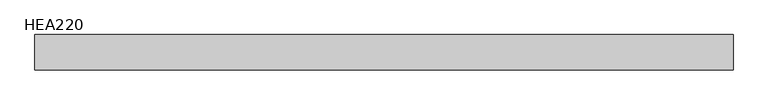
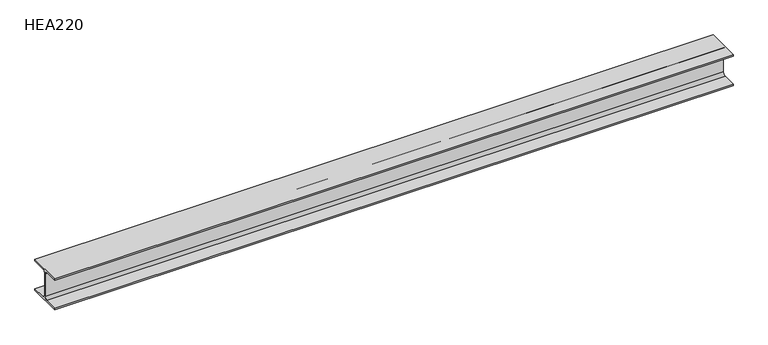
"""IFC4 building model written with IfcOpenShell, lengths in millimetres: beam geometry, HE-A : HEA220."""

from ifc_helpers import new_model, si_unit, point, frame, frame_2d, origin, place, context, project, spatial, polyline, circle_curve, trimmed, segment, composite_curve, outline, extrude, source, transform, mapped, element, save


def hea220_084d61d4(model_context):
    return source(origin(), model_context, "Body", "SweptSolid", [
        extrude(outline(composite_curve([segment(polyline([(110.0, -94.0), (110.0, -105.0), (-110.0, -105.0), (-110.0, -94.0), (-21.5, -94.0)]), True, "CONTINUOUS"), segment(trimmed(circle_curve(frame_2d((-21.5, -76.0)), 18.0), [point((-21.5, -94.0))], [point((-3.5, -76.0))], True, "CARTESIAN"), True, "CONTINUOUS"), segment(polyline([(-3.5, -76.0), (-3.5, 76.0)]), True, "CONTINUOUS"), segment(trimmed(circle_curve(frame_2d((-21.5, 76.0)), 18.0), [point((-3.5, 76.0))], [point((-21.5, 94.0))], True, "CARTESIAN"), True, "CONTINUOUS"), segment(polyline([(-21.5, 94.0), (-110.0, 94.0), (-110.0, 105.0), (110.0, 105.0), (110.0, 94.0), (21.5, 94.0)]), True, "CONTINUOUS"), segment(trimmed(circle_curve(frame_2d((21.5, 76.0)), 18.0), [point((21.5, 94.0))], [point((3.5, 76.0))], True, "CARTESIAN"), True, "CONTINUOUS"), segment(polyline([(3.5, 76.0), (3.5, -76.0)]), True, "CONTINUOUS"), segment(trimmed(circle_curve(frame_2d((21.5, -76.0)), 18.0), [point((3.5, -76.0))], [point((21.5, -94.0))], True, "CARTESIAN"), True, "CONTINUOUS"), segment(polyline([(21.5, -94.0), (110.0, -94.0)]), True, "CONTINUOUS")], self_intersect=False)), frame((-2165.35, 0.0, 0.0), z_axis=(1.0, 0.0, 0.0), x_axis=(0.0, 1.0, 0.0)), (0.0, 0.0, 1.0), 4330.7),
    ])


if __name__ == "__main__":
    model = new_model("IFC4")
    model_context = context("Model", 3, world=origin())
    ifc_project = project(units=[si_unit("LENGTHUNIT", "METRE", prefix="MILLI")], contexts=[model_context])
    site = spatial("IfcSite", under=ifc_project)
    building = spatial("IfcBuilding", under=site)
    placement = place(None, origin())
    hea220_shape = hea220_084d61d4(model_context)
    element("IfcBeam", 1, ObjectType="HE-A : HEA220", at=placement, inside=building, context=model_context, shape_type="MappedRepresentation", body=[
        mapped(hea220_shape, transform((0.0, 0.0, 0.0), x_axis=(1.0, 0.0, 0.0), y_axis=(0.0, 1.0, 0.0), z_axis=(0.0, 0.0, 1.0))),
    ])
    save(model, "model.ifc")
